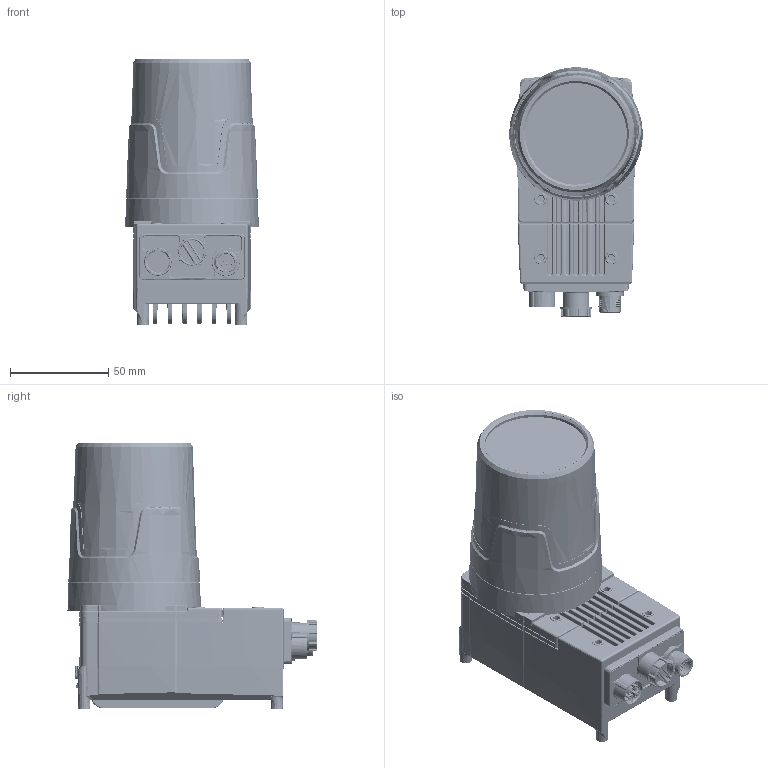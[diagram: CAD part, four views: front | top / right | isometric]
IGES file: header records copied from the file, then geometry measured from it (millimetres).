
Start section: SolidWorks IGES file using analytic representation for surfaces
Global section: file name: M:\IS019\IS019-05\IS019-05_7-10-19.IGS; native system: SolidWorks 2018; preprocessor: SolidWorks 2018; author: rgainer; date: 190712.101148; units: millimetre
Bounding box: 68.03 x 126.87 x 135.75 mm (x, y, z)
Surface area: 124737.3 mm2 (no closed solid volume)
Topology: 0 solids, 0 shells, 7324 faces, 69622 edges, 69457 vertices
Faces by surface type: bspline 4571, revolution 2753
